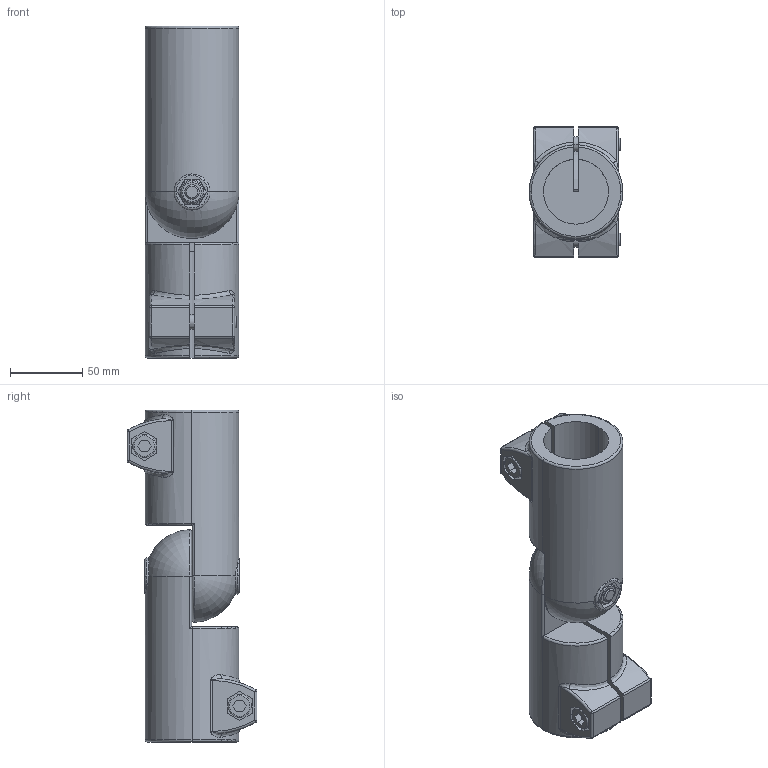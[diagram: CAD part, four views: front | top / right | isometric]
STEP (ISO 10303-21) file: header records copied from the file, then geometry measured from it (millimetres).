
FILE_DESCRIPTION (( 'STEP AP214' ), '1' );
FILE_NAME ('286-B45-B45-T-2-BL.step', '2021-12-02T12:13:59', ( '' ), ( '' ), 'SwSTEP 2.0', 'SolidWorks 2019', '' );
FILE_SCHEMA (( 'AUTOMOTIVE_DESIGN' ));
Length unit declared in the file: millimetre
Products named in the file (3): 286-B45-B45-T-2-BL; WB276^WB286_B45-IV-2-BL; WB276_1^WB286_B45-AV-2-BL
Assembly tree (2 placements, depth 2):
  286-B45-B45-T-2-BL
    WB276^WB286_B45-IV-2-BL
    WB276_1^WB286_B45-AV-2-BL
Bounding box: 65 x 90 x 230 mm (x, y, z)
Volume: 523962.8 mm3; surface area: 110664.2 mm2
Topology: 2 solids, 2 shells, 496 faces, 1256 edges, 782 vertices
Faces by surface type: plane 290, cylinder 108, torus 46, cone 24, bspline 20, sphere 8
Entity records: 19024 total; most frequent: CARTESIAN_POINT 6337, ORIENTED_EDGE 2496, DIRECTION 2358, EDGE_CURVE 1248, AXIS2_PLACEMENT_3D 929, VERTEX_POINT 782, EDGE_LOOP 528, VECTOR 500
